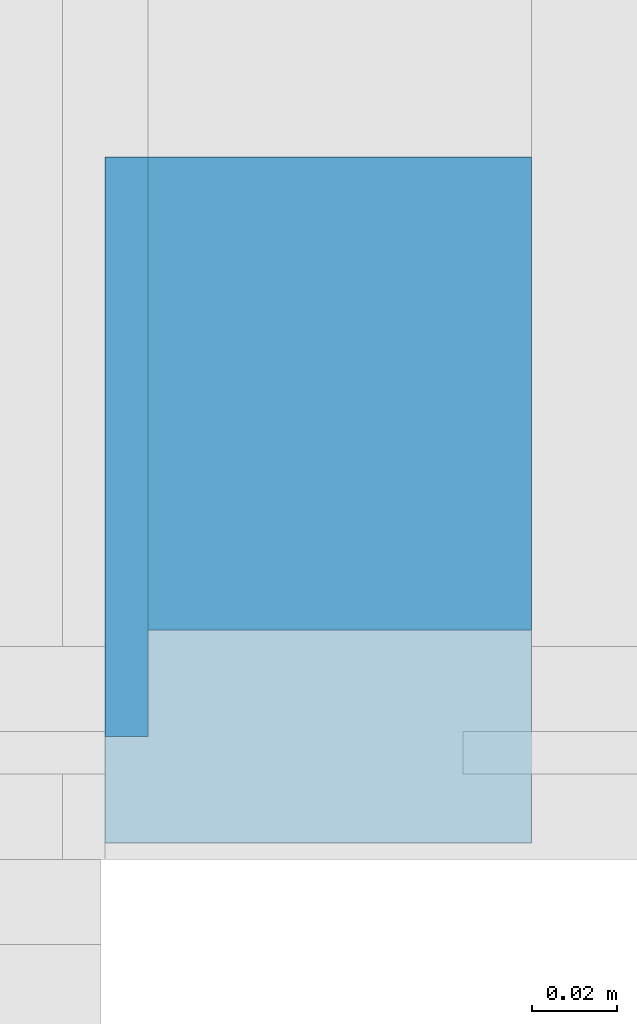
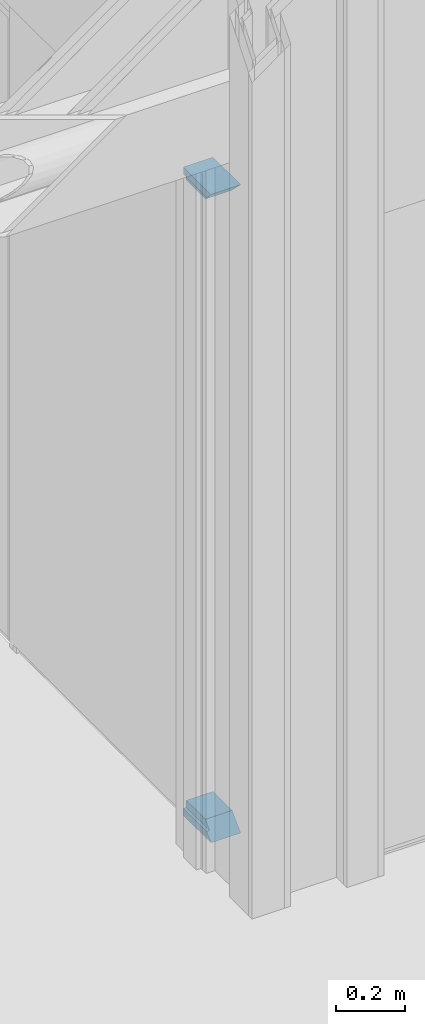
# One storey, part 13 of 139: 2 members, 1 element without a shape of its own.
"""IFC2X3 building model written with IfcOpenShell, lengths in millimetres."""

from ifc_helpers import new_model, entity, si_unit, converted_unit, derived_unit, money_unit, direction, frame, origin_with_axes, place, context, subcontext, project, spatial, faceted_brep, source, transform, mapped, material, type_object, element, aggregate, save


model = new_model("IFC2X3")

# Units and contexts
model_context = context("Model", 3, precision=0.01, world=origin_with_axes(), true_north=direction((0.0, 1.0)))
body_context = subcontext(model_context, "Body", "Model", "MODEL_VIEW")
ifc_project = project(units=[si_unit("LENGTHUNIT", "METRE", prefix="MILLI"), si_unit("AREAUNIT", "SQUARE_METRE"), si_unit("VOLUMEUNIT", "CUBIC_METRE"), converted_unit("PLANEANGLEUNIT", "DEGREE", entity("IfcPlaneAngleMeasure", 0.0174532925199), si_unit("PLANEANGLEUNIT", "RADIAN"), dimensions=[0, 0, 0, 0, 0, 0, 0]), money_unit("EUR"), converted_unit("TIMEUNIT", "Year", entity("IfcTimeMeasure", 31556926.0), si_unit("TIMEUNIT", "SECOND"), dimensions=[0, 0, 1, 0, 0, 0, 0]), si_unit("MASSUNIT", "GRAM", prefix="KILO"), si_unit("THERMODYNAMICTEMPERATUREUNIT", "DEGREE_CELSIUS"), si_unit("LUMINOUSINTENSITYUNIT", "LUMEN"), si_unit("ENERGYUNIT", "JOULE", prefix="MEGA"), derived_unit("THERMALCONDUCTANCEUNIT", [(si_unit("POWERUNIT", "WATT"), 1), (si_unit("LENGTHUNIT", "METRE"), -1), (si_unit("THERMODYNAMICTEMPERATUREUNIT", "KELVIN"), -1)]), derived_unit("SPECIFICHEATCAPACITYUNIT", [(si_unit("ENERGYUNIT", "JOULE"), 1), (si_unit("MASSUNIT", "GRAM", prefix="KILO"), -1), (si_unit("THERMODYNAMICTEMPERATUREUNIT", "KELVIN"), -1)]), derived_unit("MASSDENSITYUNIT", [(si_unit("MASSUNIT", "GRAM", prefix="KILO"), 1), (si_unit("VOLUMEUNIT", "CUBIC_METRE"), -1)])], contexts=[model_context])

# Site, building, storey
site_placement = place(None, origin_with_axes())
site = spatial("IfcSite", under=ifc_project, at=site_placement, Name="Kolde pst 67a", CompositionType="ELEMENT")
building_placement = place(site_placement, origin_with_axes())
building = spatial("IfcBuilding", under=site, at=building_placement, Name="Riigigümnaasium", CompositionType="ELEMENT")
storey_placement = place(building_placement, frame((0.0, 0.0, 4600.0), z_axis=(0.0, 0.0, 1.0), x_axis=(1.0, 0.0, 0.0)))
storey = spatial("IfcBuildingStorey", under=building, at=storey_placement, Name="2. korrus", CompositionType="ELEMENT", Elevation=4600.0)

# Curtain wall, members
curtain_wall_type = type_object("IfcCurtainWallType", Name="Curtain Wall Type", PredefinedType="NOTDEFINED")
curtain_wall_placement = place(storey_placement, frame((52619.9941222, 32759.7635899, -0.000120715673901), z_axis=(0.0, 0.0, 1.0), x_axis=(1.0, 0.0, 0.0)))
curtain_wall = element("IfcCurtainWall", 1, at=curtain_wall_placement, inside=storey, type_object=curtain_wall_type, Name="KLAASSEIN")
ifc_material = material(Name="_GENEERILINE MATERJAL")
member_type = type_object("IfcMemberType", Name="Boundary Frame 50 x 100", PredefinedType="MEMBER")
shared_shape_1 = source(origin_with_axes(), body_context, "Body", "Brep", [
    faceted_brep([(-50.0, -10.0, 0.0), (-50.0, -100.0, 0.0), (-50.0, -100.0, 110.891860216), (-50.0, -10.0, 110.891860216), (-25.0, -10.0, 0.0), (-25.0, 0.0, 0.0), (0.0, 0.0, 0.0), (0.0, -100.0, 0.0), (0.0, -100.0, 160.891860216), (-25.0, -10.0, 135.891860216), (0.0, 0.0, 160.891860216), (-25.0, 0.0, 135.891860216)], [[[0, 1, 2, 3]], [[4, 5, 6, 7, 1, 0]], [[1, 7, 8, 2]], [[9, 3, 2, 8, 10, 11]], [[9, 4, 0, 3]], [[5, 4, 9, 11]], [[11, 10, 6, 5]], [[7, 6, 10, 8]]]),
])
member_1_placement = place(curtain_wall_placement, frame((0.0, -3675.0, 2300.00012072), z_axis=(0.0, -1.0, 0.0), x_axis=(0.0, 0.0, 1.0)))
member_1 = element("IfcMember", 2, at=member_1_placement, type_object=member_type, material=ifc_material, Name="RF RAAM SERV-598", ObjectType="MEMBER", context=body_context, shape_type="MappedRepresentation", body=[
    mapped(shared_shape_1, transform((0.0, 0.0, 0.0))),
])
shared_shape_2 = source(origin_with_axes(), body_context, "Body", "Brep", [
    faceted_brep([(50.0, -10.0, 0.0), (50.0, -10.0, 110.891860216), (50.0, -100.0, 110.891860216), (50.0, -100.0, 0.0), (25.0, -10.0, 135.891860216), (25.0, -10.0, 0.0), (25.0, 0.0, 135.891860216), (0.0, 0.0, 160.891860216), (0.0, -100.0, 160.891860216), (0.0, -100.0, 0.0), (0.0, 0.0, 0.0), (25.0, 0.0, 0.0)], [[[0, 1, 2, 3]], [[4, 1, 0, 5]], [[4, 6, 7, 8, 2, 1]], [[3, 2, 8, 9]], [[5, 0, 3, 9, 10, 11]], [[11, 6, 4, 5]], [[6, 11, 10, 7]], [[9, 8, 7, 10]]]),
])
member_2_placement = place(curtain_wall_placement, frame((0.0, -3675.0, 0.0), z_axis=(0.0, -1.0, 0.0), x_axis=(0.0, 0.0, 1.0)))
member_2 = element("IfcMember", 3, at=member_2_placement, type_object=member_type, material=ifc_material, Name="RF RAAM SERV-596", ObjectType="MEMBER", context=body_context, shape_type="MappedRepresentation", body=[
    mapped(shared_shape_2, transform((0.0, 0.0, 0.0))),
])
aggregate(curtain_wall, [member_1, member_2])

save(model, "model.ifc")
